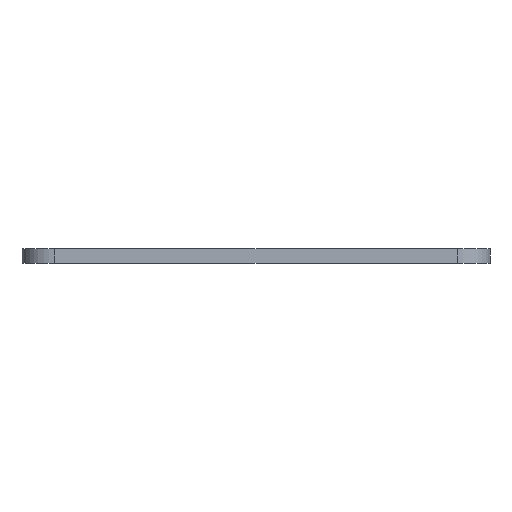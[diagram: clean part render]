
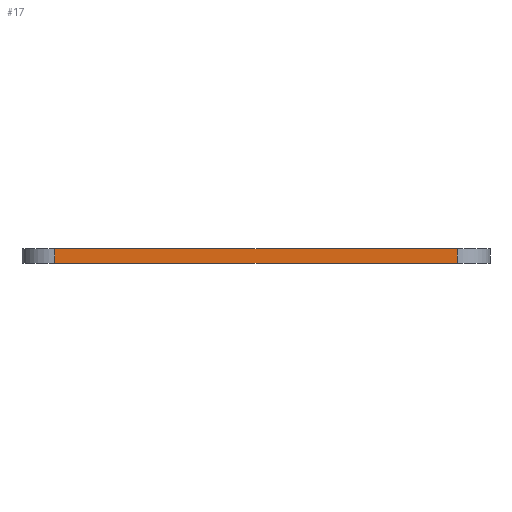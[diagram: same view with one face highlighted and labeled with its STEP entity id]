
A CAD part, left-side view. The second image highlights one B-rep face of the part: STEP entity #17.
In plain terms, the highlighted planar face has unit normal (-1, 0, 0).
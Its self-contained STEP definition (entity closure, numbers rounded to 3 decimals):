
#17 = ADVANCED_FACE('',(#18),#32,.F.);
#18 = FACE_BOUND('',#19,.F.);
#19 = EDGE_LOOP('',(#20,#55,#83,#111));
#20 = ORIENTED_EDGE('',*,*,#21,.F.);
#21 = EDGE_CURVE('',#22,#24,#26,.T.);
#22 = VERTEX_POINT('',#23);
#23 = CARTESIAN_POINT('',(0.,7.,161.));
#24 = VERTEX_POINT('',#25);
#25 = CARTESIAN_POINT('',(0.,93.,161.));
#26 = SURFACE_CURVE('',#27,(#31,#43),.PCURVE_S1.);
#27 = LINE('',#28,#29);
#28 = CARTESIAN_POINT('',(0.,0.,161.));
#29 = VECTOR('',#30,1.);
#30 = DIRECTION('',(-0.,1.,0.));
#31 = PCURVE('',#32,#37);
#32 = PLANE('',#33);
#33 = AXIS2_PLACEMENT_3D('',#34,#35,#36);
#34 = CARTESIAN_POINT('',(0.,0.,158.));
#35 = DIRECTION('',(1.,0.,-0.));
#36 = DIRECTION('',(0.,0.,1.));
#37 = DEFINITIONAL_REPRESENTATION('',(#38),#42);
#38 = LINE('',#39,#40);
#39 = CARTESIAN_POINT('',(3.,0.));
#40 = VECTOR('',#41,1.);
#41 = DIRECTION('',(0.,-1.));
#42 = ( GEOMETRIC_REPRESENTATION_CONTEXT(2)
PARAMETRIC_REPRESENTATION_CONTEXT() REPRESENTATION_CONTEXT('2D SPACE',''
  ) );
#43 = PCURVE('',#44,#49);
#44 = PLANE('',#45);
#45 = AXIS2_PLACEMENT_3D('',#46,#47,#48);
#46 = CARTESIAN_POINT('',(0.,0.,161.));
#47 = DIRECTION('',(0.,0.,1.));
#48 = DIRECTION('',(1.,0.,-0.));
#49 = DEFINITIONAL_REPRESENTATION('',(#50),#54);
#50 = LINE('',#51,#52);
#51 = CARTESIAN_POINT('',(0.,0.));
#52 = VECTOR('',#53,1.);
#53 = DIRECTION('',(0.,1.));
#54 = ( GEOMETRIC_REPRESENTATION_CONTEXT(2)
PARAMETRIC_REPRESENTATION_CONTEXT() REPRESENTATION_CONTEXT('2D SPACE',''
  ) );
#55 = ORIENTED_EDGE('',*,*,#56,.F.);
#56 = EDGE_CURVE('',#57,#22,#59,.T.);
#57 = VERTEX_POINT('',#58);
#58 = CARTESIAN_POINT('',(0.,7.,158.));
#59 = SURFACE_CURVE('',#60,(#64,#71),.PCURVE_S1.);
#60 = LINE('',#61,#62);
#61 = CARTESIAN_POINT('',(0.,7.,158.));
#62 = VECTOR('',#63,1.);
#63 = DIRECTION('',(0.,0.,1.));
#64 = PCURVE('',#32,#65);
#65 = DEFINITIONAL_REPRESENTATION('',(#66),#70);
#66 = LINE('',#67,#68);
#67 = CARTESIAN_POINT('',(0.,-7.));
#68 = VECTOR('',#69,1.);
#69 = DIRECTION('',(1.,0.));
#70 = ( GEOMETRIC_REPRESENTATION_CONTEXT(2)
PARAMETRIC_REPRESENTATION_CONTEXT() REPRESENTATION_CONTEXT('2D SPACE',''
  ) );
#71 = PCURVE('',#72,#77);
#72 = CYLINDRICAL_SURFACE('',#73,7.);
#73 = AXIS2_PLACEMENT_3D('',#74,#75,#76);
#74 = CARTESIAN_POINT('',(7.,7.,158.));
#75 = DIRECTION('',(0.,0.,1.));
#76 = DIRECTION('',(-1.,-0.,0.));
#77 = DEFINITIONAL_REPRESENTATION('',(#78),#82);
#78 = LINE('',#79,#80);
#79 = CARTESIAN_POINT('',(0.,0.));
#80 = VECTOR('',#81,1.);
#81 = DIRECTION('',(0.,1.));
#82 = ( GEOMETRIC_REPRESENTATION_CONTEXT(2)
PARAMETRIC_REPRESENTATION_CONTEXT() REPRESENTATION_CONTEXT('2D SPACE',''
  ) );
#83 = ORIENTED_EDGE('',*,*,#84,.T.);
#84 = EDGE_CURVE('',#57,#85,#87,.T.);
#85 = VERTEX_POINT('',#86);
#86 = CARTESIAN_POINT('',(0.,93.,158.));
#87 = SURFACE_CURVE('',#88,(#92,#99),.PCURVE_S1.);
#88 = LINE('',#89,#90);
#89 = CARTESIAN_POINT('',(0.,0.,158.));
#90 = VECTOR('',#91,1.);
#91 = DIRECTION('',(-0.,1.,0.));
#92 = PCURVE('',#32,#93);
#93 = DEFINITIONAL_REPRESENTATION('',(#94),#98);
#94 = LINE('',#95,#96);
#95 = CARTESIAN_POINT('',(0.,0.));
#96 = VECTOR('',#97,1.);
#97 = DIRECTION('',(0.,-1.));
#98 = ( GEOMETRIC_REPRESENTATION_CONTEXT(2)
PARAMETRIC_REPRESENTATION_CONTEXT() REPRESENTATION_CONTEXT('2D SPACE',''
  ) );
#99 = PCURVE('',#100,#105);
#100 = PLANE('',#101);
#101 = AXIS2_PLACEMENT_3D('',#102,#103,#104);
#102 = CARTESIAN_POINT('',(0.,0.,158.));
#103 = DIRECTION('',(0.,0.,1.));
#104 = DIRECTION('',(1.,0.,-0.));
#105 = DEFINITIONAL_REPRESENTATION('',(#106),#110);
#106 = LINE('',#107,#108);
#107 = CARTESIAN_POINT('',(0.,0.));
#108 = VECTOR('',#109,1.);
#109 = DIRECTION('',(0.,1.));
#110 = ( GEOMETRIC_REPRESENTATION_CONTEXT(2)
PARAMETRIC_REPRESENTATION_CONTEXT() REPRESENTATION_CONTEXT('2D SPACE',''
  ) );
#111 = ORIENTED_EDGE('',*,*,#112,.T.);
#112 = EDGE_CURVE('',#85,#24,#113,.T.);
#113 = SURFACE_CURVE('',#114,(#118,#125),.PCURVE_S1.);
#114 = LINE('',#115,#116);
#115 = CARTESIAN_POINT('',(0.,93.,158.));
#116 = VECTOR('',#117,1.);
#117 = DIRECTION('',(0.,0.,1.));
#118 = PCURVE('',#32,#119);
#119 = DEFINITIONAL_REPRESENTATION('',(#120),#124);
#120 = LINE('',#121,#122);
#121 = CARTESIAN_POINT('',(0.,-93.));
#122 = VECTOR('',#123,1.);
#123 = DIRECTION('',(1.,0.));
#124 = ( GEOMETRIC_REPRESENTATION_CONTEXT(2)
PARAMETRIC_REPRESENTATION_CONTEXT() REPRESENTATION_CONTEXT('2D SPACE',''
  ) );
#125 = PCURVE('',#126,#131);
#126 = CYLINDRICAL_SURFACE('',#127,7.);
#127 = AXIS2_PLACEMENT_3D('',#128,#129,#130);
#128 = CARTESIAN_POINT('',(7.,93.,158.));
#129 = DIRECTION('',(0.,0.,1.));
#130 = DIRECTION('',(-1.,-0.,0.));
#131 = DEFINITIONAL_REPRESENTATION('',(#132),#136);
#132 = LINE('',#133,#134);
#133 = CARTESIAN_POINT('',(-0.,0.));
#134 = VECTOR('',#135,1.);
#135 = DIRECTION('',(-0.,1.));
#136 = ( GEOMETRIC_REPRESENTATION_CONTEXT(2)
PARAMETRIC_REPRESENTATION_CONTEXT() REPRESENTATION_CONTEXT('2D SPACE',''
  ) );
